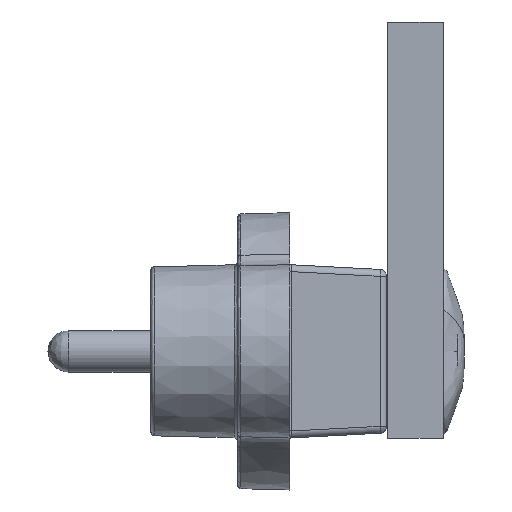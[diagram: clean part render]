
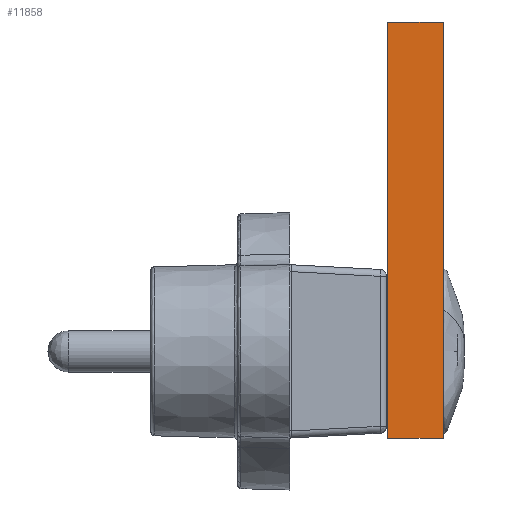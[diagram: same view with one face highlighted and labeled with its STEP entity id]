
A CAD part, left-side view. The second image highlights one B-rep face of the part: STEP entity #11858.
In plain terms, the highlighted planar face has unit normal (-1, 0, 0).
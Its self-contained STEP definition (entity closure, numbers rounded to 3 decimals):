
#361 = VECTOR ( 'NONE', #8370, 1000. ) ;
#857 = PLANE ( 'NONE',  #6080 ) ;
#1177 = CARTESIAN_POINT ( 'NONE',  ( -5., 1.6, 6. ) ) ;
#2634 = LINE ( 'NONE', #13618, #9613 ) ;
#2681 = ORIENTED_EDGE ( 'NONE', *, *, #10443, .F. ) ;
#3116 = VECTOR ( 'NONE', #13550, 1000. ) ;
#3296 = CARTESIAN_POINT ( 'NONE',  ( -5., 1.6, 6. ) ) ;
#3414 = CARTESIAN_POINT ( 'NONE',  ( -5., 0., 0. ) ) ;
#4070 = VERTEX_POINT ( 'NONE', #15600 ) ;
#4276 = CARTESIAN_POINT ( 'NONE',  ( -5., 1.6, -6. ) ) ;
#4778 = FACE_OUTER_BOUND ( 'NONE', #10935, .T. ) ;
#4885 = LINE ( 'NONE', #3414, #361 ) ;
#4939 = ORIENTED_EDGE ( 'NONE', *, *, #13812, .F. ) ;
#5034 = CARTESIAN_POINT ( 'NONE',  ( -5., 1.6, 6. ) ) ;
#6080 = AXIS2_PLACEMENT_3D ( 'NONE', #3296, #7279, #7137 ) ;
#6363 = ORIENTED_EDGE ( 'NONE', *, *, #10446, .T. ) ;
#6478 = DIRECTION ( 'NONE',  ( 0., -1., 0. ) ) ;
#7137 = DIRECTION ( 'NONE',  ( 0., 0., -1. ) ) ;
#7279 = DIRECTION ( 'NONE',  ( 1., 0., 0. ) ) ;
#7645 = ORIENTED_EDGE ( 'NONE', *, *, #11285, .F. ) ;
#8370 = DIRECTION ( 'NONE',  ( 0., 0., -1. ) ) ;
#9423 = LINE ( 'NONE', #11747, #10580 ) ;
#9613 = VECTOR ( 'NONE', #6478, 1000. ) ;
#9692 = LINE ( 'NONE', #1177, #3116 ) ;
#10024 = VERTEX_POINT ( 'NONE', #5034 ) ;
#10077 = CARTESIAN_POINT ( 'NONE',  ( -5., 0., -6. ) ) ;
#10443 = EDGE_CURVE ( 'NONE', #12849, #10024, #9692, .T. ) ;
#10446 = EDGE_CURVE ( 'NONE', #12849, #12007, #9423, .T. ) ;
#10459 = DIRECTION ( 'NONE',  ( 0., -1., 0. ) ) ;
#10580 = VECTOR ( 'NONE', #10459, 1000. ) ;
#10935 = EDGE_LOOP ( 'NONE', ( #4939, #2681, #6363, #7645 ) ) ;
#11285 = EDGE_CURVE ( 'NONE', #4070, #12007, #4885, .T. ) ;
#11747 = CARTESIAN_POINT ( 'NONE',  ( -5., 1.6, -6. ) ) ;
#11858 = ADVANCED_FACE ( 'NONE', ( #4778 ), #857, .F. ) ;
#12007 = VERTEX_POINT ( 'NONE', #10077 ) ;
#12849 = VERTEX_POINT ( 'NONE', #4276 ) ;
#13550 = DIRECTION ( 'NONE',  ( 0., 0., 1. ) ) ;
#13618 = CARTESIAN_POINT ( 'NONE',  ( -5., 1.6, 6. ) ) ;
#13812 = EDGE_CURVE ( 'NONE', #10024, #4070, #2634, .T. ) ;
#15600 = CARTESIAN_POINT ( 'NONE',  ( -5., 0., 6. ) ) ;
